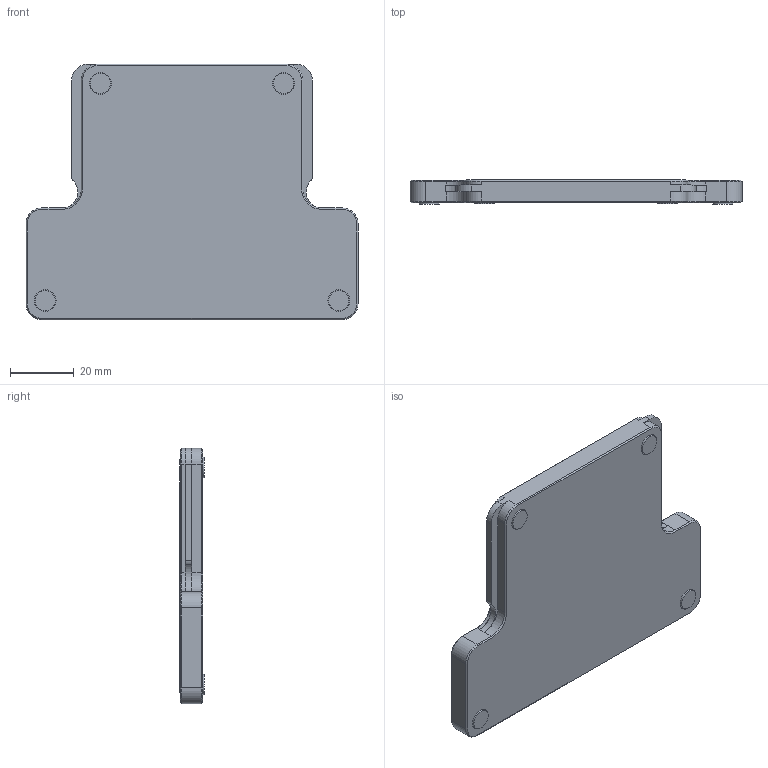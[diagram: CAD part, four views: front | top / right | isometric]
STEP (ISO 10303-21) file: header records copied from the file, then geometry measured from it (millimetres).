
FILE_DESCRIPTION(/* description */ (''),/* implementation_level */ '2;1');
FILE_NAME(/* name */ 'LA_9908_0892_A.stp',/* time_stamp */ '2012-05-10T15:22:19+01:00',/* author */ (''),/* organization */ (''),/* preprocessor_version */ 'ST-DEVELOPER v11',/* originating_system */ 'SIEMENS PLM Software NX 7.5',/* authorisation */ '');
FILE_SCHEMA (('AP203_CONFIGURATION_CONTROLLED_3D_DESIGN_OF_MECHANICAL_PARTS_AND_ASSEMBLIES_MIM_LF'));
Length unit declared in the file: millimetre
Products named in the file (1): js133B79t4jn
Bounding box: 104 x 7.55 x 80 mm (x, y, z)
Volume: 48551.5 mm3; surface area: 16701 mm2
Topology: 1 solids, 1 shells, 491 faces, 1298 edges, 856 vertices
Faces by surface type: plane 313, cylinder 82, extrusion 80, cone 16
Full cylindrical faces by diameter (mm): 6.35 x4, 6.8 x4
Entity records: 18697 total; most frequent: CARTESIAN_POINT 3179, ORIENTED_EDGE 2572, DIRECTION 2210, EDGE_CURVE 1286, VECTOR 1026, LINE 946, VERTEX_POINT 852, AXIS2_PLACEMENT_3D 592
